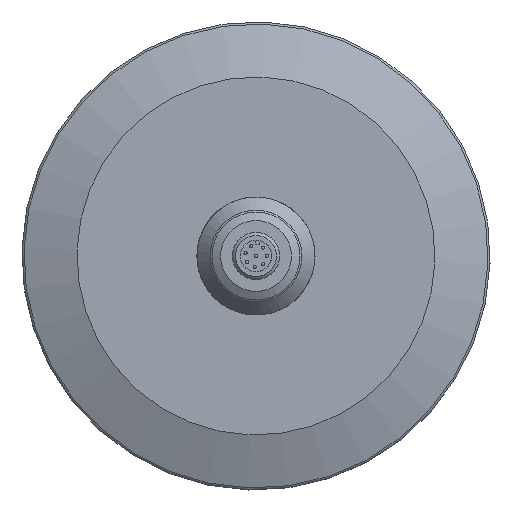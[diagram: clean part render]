
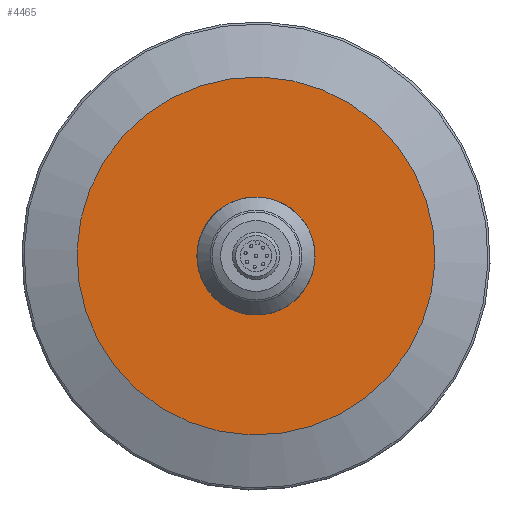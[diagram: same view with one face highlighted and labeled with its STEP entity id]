
A CAD part, front view. The second image highlights one B-rep face of the part: STEP entity #4465.
In plain terms, the highlighted planar face has unit normal (0, -1, 0).
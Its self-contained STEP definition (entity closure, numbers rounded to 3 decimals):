
#652=PLANE('',#4688);
#722=ORIENTED_EDGE('',*,*,#1614,.T.);
#723=ORIENTED_EDGE('',*,*,#1613,.F.);
#1613=EDGE_CURVE('',#2064,#2064,#2372,.T.);
#1614=EDGE_CURVE('',#2065,#2065,#2373,.F.);
#2064=VERTEX_POINT('',#5488);
#2065=VERTEX_POINT('',#5491);
#2372=CIRCLE('',#4687,45.488);
#2373=CIRCLE('',#4689,15.);
#2483=EDGE_LOOP('',(#722));
#2484=EDGE_LOOP('',(#723));
#2750=FACE_BOUND('',#2483,.T.);
#2751=FACE_BOUND('',#2484,.T.);
#4465=ADVANCED_FACE('',(#2750,#2751),#652,.T.);
#4687=AXIS2_PLACEMENT_3D('',#5487,#4928,#4929);
#4688=AXIS2_PLACEMENT_3D('',#5489,#4930,#4931);
#4689=AXIS2_PLACEMENT_3D('',#5490,#4932,#4933);
#4928=DIRECTION('',(0.,1.,0.));
#4929=DIRECTION('',(-0.528,0.,-0.849));
#4930=DIRECTION('',(0.,-1.,0.));
#4931=DIRECTION('',(0.528,0.,0.849));
#4932=DIRECTION('',(0.,-1.,0.));
#4933=DIRECTION('',(1.,0.,0.));
#5487=CARTESIAN_POINT('',(0.,-1.101,0.));
#5488=CARTESIAN_POINT('',(-24.039,-1.101,-38.617));
#5489=CARTESIAN_POINT('',(-12.02,-1.101,-19.308));
#5490=CARTESIAN_POINT('',(0.,-1.101,0.));
#5491=CARTESIAN_POINT('',(15.,-1.101,0.));
